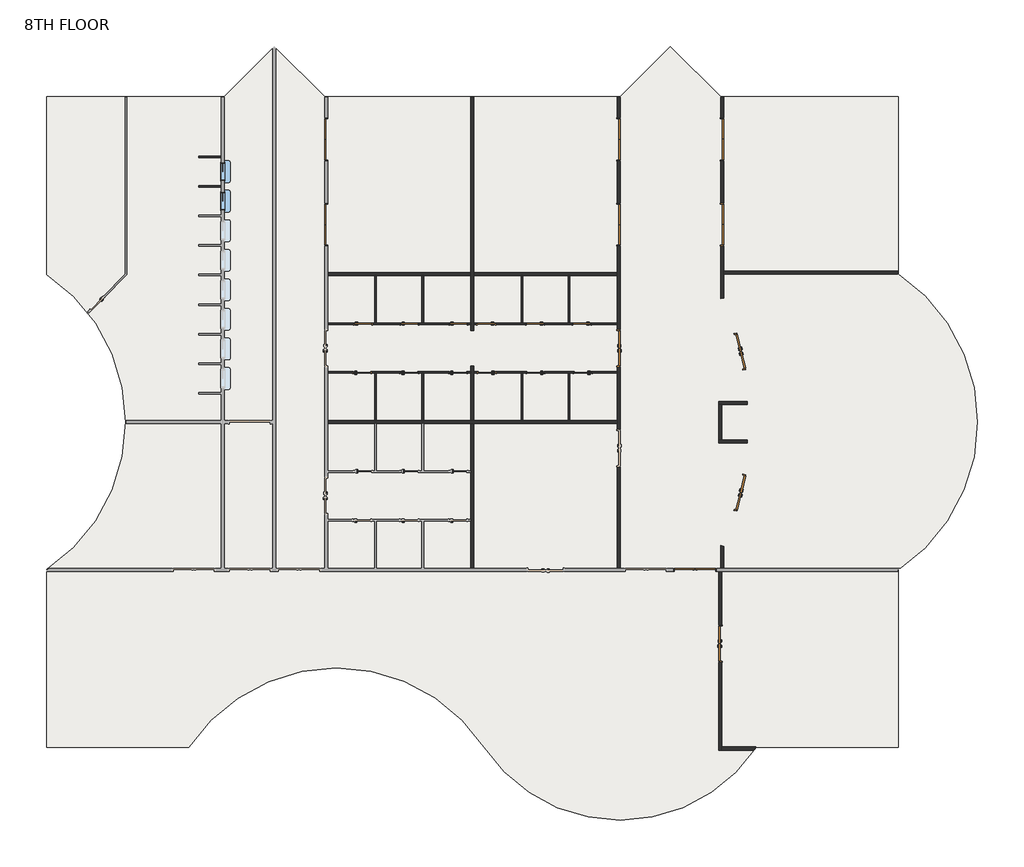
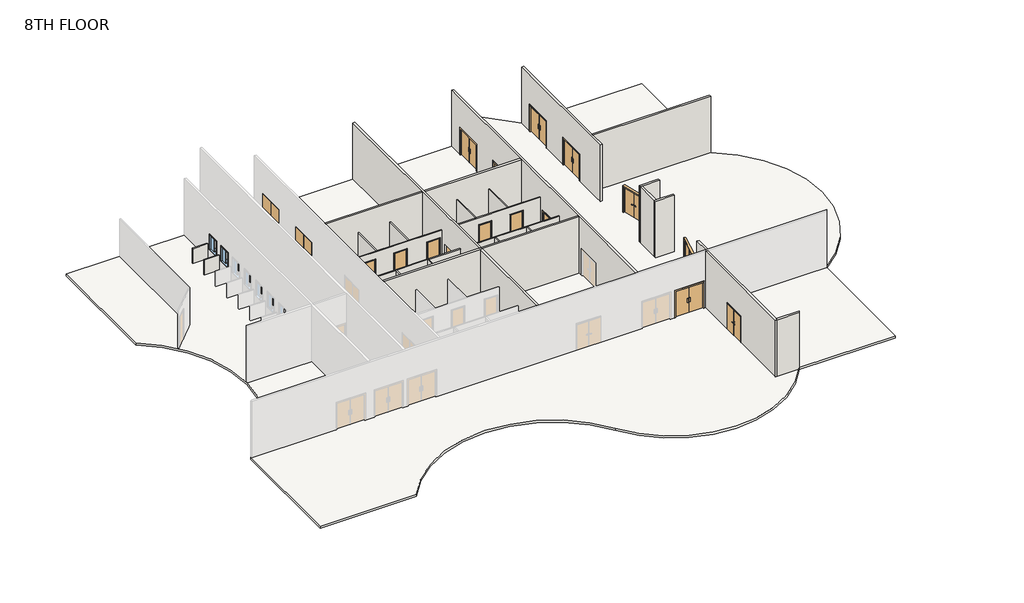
# One storey, part 2 of 2: 26 walls, 23 doors, 2 windows, 1 slab.
"""IFC4 building model written with IfcOpenShell, lengths in millimetres."""

from ifc_helpers import new_model, si_unit, point, frame, frame_2d, origin, place, context, project, spatial, polyline, circle_curve, trimmed, segment, composite_curve, outline, extrude, faceted_brep, transform, mapped, element, save
from ifc_brep_helpers import plane_surface, cylinder_surface, advanced_brep
from components import door_2f250f70, door_df8e76c5, door_0b13e4d9, door_b3a27a16, door_979b1b8c, door_f8b587be, pass_thru_4x3_19d81059

model = new_model("IFC4")

# Units and contexts
model_context = context("Model", 3, world=origin())
ifc_project = project(units=[si_unit("LENGTHUNIT", "METRE", prefix="MILLI")], contexts=[model_context])

# Site, building, storey
site = spatial("IfcSite", under=ifc_project)
building = spatial("IfcBuilding", under=site)
storey = spatial("IfcBuildingStorey", under=building, Name="8TH FLOOR", Elevation=36576.0)

# Doors
placement = place(None, origin())
door_shape = door_2f250f70(model_context)
element("IfcDoor", 1, ObjectType="Door-Passage-Double-Flush : 72\" x 82\"", at=placement, inside=storey, context=model_context, shape_type="MappedRepresentation", body=[
    mapped(door_shape, transform((35885.2621514, 20561.4429091, 36576.0), x_axis=(0.23975975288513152, -0.9708322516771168, 0.0), y_axis=(0.9708322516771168, 0.23975975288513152, 0.0), z_axis=(0.0, 0.0, 1.0))),
])
element("IfcDoor", 2, ObjectType="Door-Passage-Double-Flush : 72\" x 82\"", at=placement, inside=storey, context=model_context, shape_type="MappedRepresentation", body=[
    mapped(door_shape, transform((34887.5089577, 5494.3375, 36576.0), x_axis=(0.0, 1.0, 0.0), y_axis=(-1.0, 0.0, 0.0), z_axis=(0.0, 0.0, 1.0))),
])
door_2_shape = door_df8e76c5(model_context)
element("IfcDoor", 3, ObjectType="Door-Passage-Double-Flush : 72\" x 82\"", at=placement, inside=storey, context=model_context, shape_type="MappedRepresentation", body=[
    mapped(door_2_shape, transform((35886.7385063, 13277.3403388, 36576.0), x_axis=(0.23936619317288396, 0.9709293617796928, 0.0), y_axis=(-0.9709293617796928, 0.23936619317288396, 0.0), z_axis=(0.0, 0.0, 1.0))),
])
element("IfcDoor", 4, ObjectType="Door-Passage-Double-Flush : 72\" x 82\"", at=placement, inside=storey, context=model_context, shape_type="MappedRepresentation", body=[
    mapped(door_2_shape, transform((29628.0650257, 20729.575, 36576.0), x_axis=(0.0, 1.0, 0.0), y_axis=(-1.0, 0.0, 0.0), z_axis=(0.0, 0.0, 1.0))),
])
door_3_shape = door_0b13e4d9(model_context)
element("IfcDoor", 5, ObjectType="Door-Passage-Double-Flush-Dbl_Acting : 84\" x 84\"", at=placement, inside=storey, context=model_context, shape_type="MappedRepresentation", body=[
    mapped(door_3_shape, transform((33564.0300515, 9293.225, 36576.0), x_axis=(-1.0, 0.0, 0.0), y_axis=(0.0, -1.0, 0.0), z_axis=(0.0, 0.0, 1.0))),
])
element("IfcDoor", 6, ObjectType="Door-Passage-Double-Flush-Dbl_Acting : 84\" x 84\"", at=placement, inside=storey, context=model_context, shape_type="MappedRepresentation", body=[
    mapped(door_3_shape, transform((29628.0650257, 31499.175, 36576.0), x_axis=(0.0, 1.0, 0.0), y_axis=(-1.0, 0.0, 0.0), z_axis=(0.0, 0.0, 1.0))),
])
element("IfcDoor", 7, ObjectType="Door-Passage-Double-Flush-Dbl_Acting : 84\" x 84\"", at=placement, inside=storey, context=model_context, shape_type="MappedRepresentation", body=[
    mapped(door_3_shape, transform((29628.0650257, 27101.8, 36576.0), x_axis=(0.0, 1.0, 0.0), y_axis=(-1.0, 0.0, 0.0), z_axis=(0.0, 0.0, 1.0))),
])
door_4_shape = door_b3a27a16(model_context)
element("IfcDoor", 8, ObjectType="Door-Passage-Double-Flush-Dbl_Acting : 84\" x 84\"", at=placement, inside=storey, context=model_context, shape_type="MappedRepresentation", body=[
    mapped(door_4_shape, transform((14556.3400257, 31499.175, 36576.0), x_axis=(0.0, 1.0, 0.0), y_axis=(-1.0, 0.0, 0.0), z_axis=(0.0, 0.0, 1.0))),
])
element("IfcDoor", 9, ObjectType="Door-Passage-Double-Flush-Dbl_Acting : 84\" x 84\"", at=placement, inside=storey, context=model_context, shape_type="MappedRepresentation", body=[
    mapped(door_4_shape, transform((14556.3400257, 27101.8, 36576.0), x_axis=(0.0, 1.0, 0.0), y_axis=(-1.0, 0.0, 0.0), z_axis=(0.0, 0.0, 1.0))),
])
element("IfcDoor", 10, ObjectType="Door-Passage-Double-Flush-Dbl_Acting : 84\" x 84\"", at=placement, inside=storey, context=model_context, shape_type="MappedRepresentation", body=[
    mapped(door_4_shape, transform((34956.2675515, 31499.175, 36576.0), x_axis=(0.0, -1.0, 0.0), y_axis=(1.0, 0.0, 0.0), z_axis=(0.0, 0.0, 1.0))),
])
element("IfcDoor", 11, ObjectType="Door-Passage-Double-Flush-Dbl_Acting : 84\" x 84\"", at=placement, inside=storey, context=model_context, shape_type="MappedRepresentation", body=[
    mapped(door_4_shape, transform((34956.2675515, 27101.8, 36576.0), x_axis=(0.0, -1.0, 0.0), y_axis=(1.0, 0.0, 0.0), z_axis=(0.0, 0.0, 1.0))),
])
door_5_shape = door_979b1b8c(model_context)
element("IfcDoor", 12, ObjectType="Door-Passage-Single-Flush : 36\" x 96\"", at=placement, inside=storey, context=model_context, shape_type="MappedRepresentation", body=[
    mapped(door_5_shape, transform((16456.5775257, 21977.35, 36576.0), x_axis=(1.0, 0.0, 0.0), y_axis=(0.0, 1.0, 0.0), z_axis=(0.0, 0.0, 1.0))),
])
element("IfcDoor", 13, ObjectType="Door-Passage-Single-Flush : 36\" x 96\"", at=placement, inside=storey, context=model_context, shape_type="MappedRepresentation", body=[
    mapped(door_5_shape, transform((18855.2900257, 21977.35, 36576.0), x_axis=(1.0, 0.0, 0.0), y_axis=(0.0, 1.0, 0.0), z_axis=(0.0, 0.0, 1.0))),
])
element("IfcDoor", 14, ObjectType="Door-Passage-Single-Flush : 36\" x 96\"", at=placement, inside=storey, context=model_context, shape_type="MappedRepresentation", body=[
    mapped(door_5_shape, transform((21373.0650257, 21977.35, 36576.0), x_axis=(1.0, 0.0, 0.0), y_axis=(0.0, 1.0, 0.0), z_axis=(0.0, 0.0, 1.0))),
])
element("IfcDoor", 15, ObjectType="Door-Passage-Single-Flush : 36\" x 96\"", at=placement, inside=storey, context=model_context, shape_type="MappedRepresentation", body=[
    mapped(door_5_shape, transform((27778.6275257, 19481.8, 36576.0), x_axis=(-1.0, 0.0, 0.0), y_axis=(0.0, -1.0, 0.0), z_axis=(0.0, 0.0, 1.0))),
])
element("IfcDoor", 16, ObjectType="Door-Passage-Single-Flush : 36\" x 96\"", at=placement, inside=storey, context=model_context, shape_type="MappedRepresentation", body=[
    mapped(door_5_shape, transform((25348.1650257, 19481.8, 36576.0), x_axis=(-1.0, 0.0, 0.0), y_axis=(0.0, -1.0, 0.0), z_axis=(0.0, 0.0, 1.0))),
])
element("IfcDoor", 17, ObjectType="Door-Passage-Single-Flush : 36\" x 96\"", at=placement, inside=storey, context=model_context, shape_type="MappedRepresentation", body=[
    mapped(door_5_shape, transform((22830.3900257, 19481.8, 36576.0), x_axis=(-1.0, 0.0, 0.0), y_axis=(0.0, -1.0, 0.0), z_axis=(0.0, 0.0, 1.0))),
])
door_6_shape = door_f8b587be(model_context)
element("IfcDoor", 18, ObjectType="Door-Passage-Single-Flush : 36\" x 96\"", at=placement, inside=storey, context=model_context, shape_type="MappedRepresentation", body=[
    mapped(door_6_shape, transform((16405.7775257, 19481.8, 36576.0), x_axis=(1.0, 0.0, 0.0), y_axis=(0.0, 1.0, 0.0), z_axis=(0.0, 0.0, 1.0))),
])
element("IfcDoor", 19, ObjectType="Door-Passage-Single-Flush : 36\" x 96\"", at=placement, inside=storey, context=model_context, shape_type="MappedRepresentation", body=[
    mapped(door_6_shape, transform((18836.2400257, 19481.8, 36576.0), x_axis=(1.0, 0.0, 0.0), y_axis=(0.0, 1.0, 0.0), z_axis=(0.0, 0.0, 1.0))),
])
element("IfcDoor", 20, ObjectType="Door-Passage-Single-Flush : 36\" x 96\"", at=placement, inside=storey, context=model_context, shape_type="MappedRepresentation", body=[
    mapped(door_6_shape, transform((21354.0150257, 19481.8, 36576.0), x_axis=(1.0, 0.0, 0.0), y_axis=(0.0, 1.0, 0.0), z_axis=(0.0, 0.0, 1.0))),
])
element("IfcDoor", 21, ObjectType="Door-Passage-Single-Flush : 36\" x 96\"", at=placement, inside=storey, context=model_context, shape_type="MappedRepresentation", body=[
    mapped(door_6_shape, transform((27727.8275257, 21977.35, 36576.0), x_axis=(-1.0, 0.0, 0.0), y_axis=(0.0, -1.0, 0.0), z_axis=(0.0, 0.0, 1.0))),
])
element("IfcDoor", 22, ObjectType="Door-Passage-Single-Flush : 36\" x 96\"", at=placement, inside=storey, context=model_context, shape_type="MappedRepresentation", body=[
    mapped(door_6_shape, transform((25329.1150257, 21977.35, 36576.0), x_axis=(-1.0, 0.0, 0.0), y_axis=(0.0, -1.0, 0.0), z_axis=(0.0, 0.0, 1.0))),
])
element("IfcDoor", 23, ObjectType="Door-Passage-Single-Flush : 36\" x 96\"", at=placement, inside=storey, context=model_context, shape_type="MappedRepresentation", body=[
    mapped(door_6_shape, transform((22811.3400257, 21977.35, 36576.0), x_axis=(-1.0, 0.0, 0.0), y_axis=(0.0, -1.0, 0.0), z_axis=(0.0, 0.0, 1.0))),
])

# Slab
element("IfcSlab", 24, ObjectType="ARCHITECTURAL FINISH FLOOR", at=placement, inside=storey, context=model_context, shape_type="SweptSolid", body=[
    extrude(outline(composite_curve([segment(polyline([(9294.3144878, 33696.275), (11885.8887629, 36287.8492751), (14477.463038, 33696.275), (29706.9420135, 33696.275), (32298.5162886, 36287.8492751), (34890.0905637, 33696.275), (44041.5300515, 33696.275), (44041.5300515, 24546.3877275)]), True, "CONTINUOUS"), segment(trimmed(circle_curve(frame_2d((38974.293871, 16919.575)), 9156.7), [point((44041.5300515, 24546.3877275))], [point((44041.5300515, 9292.7622725))], False, "CARTESIAN"), True, "CONTINUOUS"), segment(polyline([(44041.5300515, 9292.7622725), (44041.5300515, 142.875), (36720.4425102, 142.875)]), True, "CONTINUOUS"), segment(trimmed(circle_curve(frame_2d((29712.2025257, 4799.7966199)), 8414.4130309), [point((36720.4425102, 142.875))], [point((22700.1916667, 148.5548109))], False, "CARTESIAN"), True, "CONTINUOUS"), segment(trimmed(circle_curve(frame_2d((15090.775, -4898.9611805)), 9131.3), [point((22700.1916667, 148.5548109))], [point((7477.593824, 142.875))], True, "CARTESIAN"), True, "CONTINUOUS"), segment(polyline([(7477.593824, 142.875), (142.875, 142.875), (142.875, 9306.393824)]), True, "CONTINUOUS"), segment(trimmed(circle_curve(frame_2d((-4898.9611805, 16919.575)), 9131.3), [point((142.875, 9306.393824))], [point((142.875, 24532.756176))], True, "CARTESIAN"), True, "CONTINUOUS"), segment(polyline([(142.875, 24532.756176), (142.875, 33696.275), (9294.3144878, 33696.275)]), True, "CONTINUOUS")], self_intersect=False)), frame((0.0, 0.0, 36423.6), z_axis=(0.0, 0.0, 1.0), x_axis=(1.0, 0.0, 0.0)), (0.0, 0.0, 1.0), 171.45),
])

# Walls
element("IfcWall", 25, ObjectType="SYR_INT_ONE_HOUR", at=placement, inside=storey, context=model_context, shape_type="SweptSolid", body=[
    extrude(outline(polyline([(17066.1775257, 22023.3875), (17066.1775257, 24461.7875), (17145.5525257, 24461.7875), (17145.5525257, 22023.3875), (17066.1775257, 22023.3875)])), frame((0.0, 0.0, 36576.0), z_axis=(0.0, 0.0, 1.0), x_axis=(1.0, 0.0, 0.0)), (0.0, 0.0, 1.0), 3048.0),
])
element("IfcWall", 26, ObjectType="SYR_INT_ONE_HOUR", at=placement, inside=storey, context=model_context, shape_type="SweptSolid", body=[
    extrude(outline(polyline([(19576.0150257, 19435.7625), (19576.0150257, 16997.3625), (19496.6400257, 16997.3625), (19496.6400257, 19435.7625), (19576.0150257, 19435.7625)])), frame((0.0, 0.0, 36576.0), z_axis=(0.0, 0.0, 1.0), x_axis=(1.0, 0.0, 0.0)), (0.0, 0.0, 1.0), 3048.0),
])
element("IfcWall", 27, ObjectType="SYR_INT_ONE_HOUR", at=placement, inside=storey, context=model_context, shape_type="Brep", body=[
    faceted_brep([(14627.7775257, 22023.3875, 39624.0), (17066.1775257, 22023.3875, 39624.0), (17145.5525257, 22023.3875, 39624.0), (19496.6400257, 22023.3875, 39624.0), (19576.0150257, 22023.3875, 39624.0), (22014.4150257, 22023.3875, 39624.0), (22014.4150257, 22023.3875, 36576.0), (21862.0150257, 22023.3875, 36576.0), (21862.0150257, 22023.3875, 39046.15), (20884.1150257, 22023.3875, 39046.15), (20884.1150257, 22023.3875, 36576.0), (19576.0150257, 22023.3875, 36576.0), (19496.6400257, 22023.3875, 36576.0), (19344.2400257, 22023.3875, 36576.0), (19344.2400257, 22023.3875, 39046.15), (18366.3400257, 22023.3875, 39046.15), (18366.3400257, 22023.3875, 36576.0), (17145.5525257, 22023.3875, 36576.0), (17066.1775257, 22023.3875, 36576.0), (16945.5275257, 22023.3875, 36576.0), (16945.5275257, 22023.3875, 39046.15), (15967.6275257, 22023.3875, 39046.15), (15967.6275257, 22023.3875, 36576.0), (14627.7775257, 22023.3875, 36576.0), (22014.4150257, 21944.0125, 39624.0), (14627.7775257, 21944.0125, 39624.0), (14627.7775257, 21944.0125, 36576.0), (15967.6275257, 21944.0125, 36576.0), (15967.6275257, 21944.0125, 39046.15), (16945.5275257, 21944.0125, 39046.15), (16945.5275257, 21944.0125, 36576.0), (18366.3400257, 21944.0125, 36576.0), (18366.3400257, 21944.0125, 39046.15), (19344.2400257, 21944.0125, 39046.15), (19344.2400257, 21944.0125, 36576.0), (20884.1150257, 21944.0125, 36576.0), (20884.1150257, 21944.0125, 39046.15), (21862.0150257, 21944.0125, 39046.15), (21862.0150257, 21944.0125, 36576.0), (22014.4150257, 21944.0125, 36576.0)], [[[0, 1, 2, 3, 4, 5, 6, 7, 8, 9, 10, 11, 12, 13, 14, 15, 16, 17, 18, 19, 20, 21, 22, 23]], [[24, 25, 26, 27, 28, 29, 30, 31, 32, 33, 34, 35, 36, 37, 38, 39]], [[23, 22, 27, 26]], [[30, 19, 18, 17, 16, 31]], [[34, 13, 12, 11, 10, 35]], [[6, 39, 38, 7]], [[5, 4, 3, 2, 1, 0, 25, 24]], [[29, 20, 19, 30]], [[20, 29, 28, 21]], [[21, 28, 27, 22]], [[14, 13, 34, 33]], [[15, 14, 33, 32]], [[16, 15, 32, 31]], [[37, 8, 7, 38]], [[8, 37, 36, 9]], [[9, 36, 35, 10]], [[0, 23, 26, 25]], [[6, 5, 24, 39]]]),
])
element("IfcWall", 28, ObjectType="SYR_INT_ONE_HOUR", at=placement, inside=storey, context=model_context, shape_type="Brep", body=[
    faceted_brep([(14627.7775257, 19515.1375, 39624.0), (22014.4150257, 19515.1375, 39624.0), (22014.4150257, 19515.1375, 36576.0), (21842.9650257, 19515.1375, 36576.0), (21842.9650257, 19515.1375, 39046.15), (20865.0650257, 19515.1375, 39046.15), (20865.0650257, 19515.1375, 36576.0), (19325.1900257, 19515.1375, 36576.0), (19325.1900257, 19515.1375, 39046.15), (18347.2900257, 19515.1375, 39046.15), (18347.2900257, 19515.1375, 36576.0), (16894.7275257, 19515.1375, 36576.0), (16894.7275257, 19515.1375, 39046.15), (15916.8275257, 19515.1375, 39046.15), (15916.8275257, 19515.1375, 36576.0), (14627.7775257, 19515.1375, 36576.0), (22014.4150257, 19435.7625, 39624.0), (19576.0150257, 19435.7625, 39624.0), (19496.6400257, 19435.7625, 39624.0), (17145.5525257, 19435.7625, 39624.0), (17066.1775257, 19435.7625, 39624.0), (14627.7775257, 19435.7625, 39624.0), (14627.7775257, 19435.7625, 36576.0), (15916.8275257, 19435.7625, 36576.0), (15916.8275257, 19435.7625, 39046.15), (16894.7275257, 19435.7625, 39046.15), (16894.7275257, 19435.7625, 36576.0), (17066.1775257, 19435.7625, 36576.0), (17145.5525257, 19435.7625, 36576.0), (18347.2900257, 19435.7625, 36576.0), (18347.2900257, 19435.7625, 39046.15), (19325.1900257, 19435.7625, 39046.15), (19325.1900257, 19435.7625, 36576.0), (19496.6400257, 19435.7625, 36576.0), (19576.0150257, 19435.7625, 36576.0), (20865.0650257, 19435.7625, 36576.0), (20865.0650257, 19435.7625, 39046.15), (21842.9650257, 19435.7625, 39046.15), (21842.9650257, 19435.7625, 36576.0), (22014.4150257, 19435.7625, 36576.0)], [[[0, 1, 2, 3, 4, 5, 6, 7, 8, 9, 10, 11, 12, 13, 14, 15]], [[16, 17, 18, 19, 20, 21, 22, 23, 24, 25, 26, 27, 28, 29, 30, 31, 32, 33, 34, 35, 36, 37, 38, 39]], [[15, 14, 23, 22]], [[26, 11, 10, 29, 28, 27]], [[32, 7, 6, 35, 34, 33]], [[2, 39, 38, 3]], [[1, 0, 21, 20, 19, 18, 17, 16]], [[25, 12, 11, 26]], [[12, 25, 24, 13]], [[13, 24, 23, 14]], [[31, 8, 7, 32]], [[8, 31, 30, 9]], [[9, 30, 29, 10]], [[37, 4, 3, 38]], [[4, 37, 36, 5]], [[5, 36, 35, 6]], [[0, 15, 22, 21]], [[2, 1, 16, 39]]]),
])
element("IfcWall", 29, ObjectType="SYR_INT_ONE_HOUR", at=placement, inside=storey, context=model_context, shape_type="SweptSolid", body=[
    extrude(outline(polyline([(17066.1775257, 16997.3625), (17066.1775257, 19435.7625), (17145.5525257, 19435.7625), (17145.5525257, 16997.3625), (17066.1775257, 16997.3625)])), frame((0.0, 0.0, 36576.0), z_axis=(0.0, 0.0, 1.0), x_axis=(1.0, 0.0, 0.0)), (0.0, 0.0, 1.0), 3048.0),
])
element("IfcWall", 30, ObjectType="SYR_INT_ONE_HOUR", at=placement, inside=storey, context=model_context, shape_type="SweptSolid", body=[
    extrude(outline(polyline([(19576.0150257, 24461.7875), (19576.0150257, 22023.3875), (19496.6400257, 22023.3875), (19496.6400257, 24461.7875), (19576.0150257, 24461.7875)])), frame((0.0, 0.0, 36576.0), z_axis=(0.0, 0.0, 1.0), x_axis=(1.0, 0.0, 0.0)), (0.0, 0.0, 1.0), 3048.0),
])
element("IfcWall", 31, ObjectType="SYR_INT_ONE_HOUR", at=placement, inside=storey, context=model_context, shape_type="SweptSolid", body=[
    extrude(outline(polyline([(7979.2710938, 29111.575), (9144.0, 29111.575), (9144.0, 29032.2), (7979.2710938, 29032.2), (7979.2710938, 29111.575)])), frame((0.0, 0.0, 36576.0), z_axis=(0.0, 0.0, 1.0), x_axis=(1.0, 0.0, 0.0)), (0.0, 0.0, 1.0), 1219.2),
])
element("IfcWall", 32, ObjectType="SYR_INT_ONE_HOUR", at=placement, inside=storey, context=model_context, shape_type="SweptSolid", body=[
    extrude(outline(polyline([(7979.2710938, 30635.575), (9144.0, 30635.575), (9144.0, 30556.2), (7979.2710938, 30556.2), (7979.2710938, 30635.575)])), frame((0.0, 0.0, 36576.0), z_axis=(0.0, 0.0, 1.0), x_axis=(1.0, 0.0, 0.0)), (0.0, 0.0, 1.0), 1219.2),
])
element("IfcWall", 33, ObjectType="SYR_INT_ONE_HOUR", at=placement, inside=storey, context=model_context, shape_type="SweptSolid", body=[
    extrude(outline(polyline([(27038.8525257, 22023.3875), (27038.8525257, 24461.7875), (27118.2275257, 24461.7875), (27118.2275257, 22023.3875), (27038.8525257, 22023.3875)])), frame((0.0, 0.0, 36576.0), z_axis=(0.0, 0.0, 1.0), x_axis=(1.0, 0.0, 0.0)), (0.0, 0.0, 1.0), 3048.0),
])
element("IfcWall", 34, ObjectType="SYR_INT_ONE_HOUR", at=placement, inside=storey, context=model_context, shape_type="SweptSolid", body=[
    extrude(outline(polyline([(24687.7650257, 19435.7625), (24687.7650257, 16997.3625), (24608.3900257, 16997.3625), (24608.3900257, 19435.7625), (24687.7650257, 19435.7625)])), frame((0.0, 0.0, 36576.0), z_axis=(0.0, 0.0, 1.0), x_axis=(1.0, 0.0, 0.0)), (0.0, 0.0, 1.0), 3048.0),
])
element("IfcWall", 35, ObjectType="SYR_INT_ONE_HOUR", at=placement, inside=storey, context=model_context, shape_type="Brep", body=[
    faceted_brep([(29556.6275257, 21944.0125, 39624.0), (22169.9900257, 21944.0125, 39624.0), (22169.9900257, 21944.0125, 36576.0), (22322.3900257, 21944.0125, 36576.0), (22322.3900257, 21944.0125, 39046.15), (23300.2900257, 21944.0125, 39046.15), (23300.2900257, 21944.0125, 36576.0), (24840.1650257, 21944.0125, 36576.0), (24840.1650257, 21944.0125, 39046.15), (25818.0650257, 21944.0125, 39046.15), (25818.0650257, 21944.0125, 36576.0), (27238.8775257, 21944.0125, 36576.0), (27238.8775257, 21944.0125, 39046.15), (28216.7775257, 21944.0125, 39046.15), (28216.7775257, 21944.0125, 36576.0), (29556.6275257, 21944.0125, 36576.0), (22169.9900257, 22023.3875, 39624.0), (24608.3900257, 22023.3875, 39624.0), (24687.7650257, 22023.3875, 39624.0), (27038.8525257, 22023.3875, 39624.0), (27118.2275257, 22023.3875, 39624.0), (29556.6275257, 22023.3875, 39624.0), (29556.6275257, 22023.3875, 36576.0), (28216.7775257, 22023.3875, 36576.0), (28216.7775257, 22023.3875, 39046.15), (27238.8775257, 22023.3875, 39046.15), (27238.8775257, 22023.3875, 36576.0), (27118.2275257, 22023.3875, 36576.0), (27038.8525257, 22023.3875, 36576.0), (25818.0650257, 22023.3875, 36576.0), (25818.0650257, 22023.3875, 39046.15), (24840.1650257, 22023.3875, 39046.15), (24840.1650257, 22023.3875, 36576.0), (24687.7650257, 22023.3875, 36576.0), (24608.3900257, 22023.3875, 36576.0), (23300.2900257, 22023.3875, 36576.0), (23300.2900257, 22023.3875, 39046.15), (22322.3900257, 22023.3875, 39046.15), (22322.3900257, 22023.3875, 36576.0), (22169.9900257, 22023.3875, 36576.0)], [[[0, 1, 2, 3, 4, 5, 6, 7, 8, 9, 10, 11, 12, 13, 14, 15]], [[16, 17, 18, 19, 20, 21, 22, 23, 24, 25, 26, 27, 28, 29, 30, 31, 32, 33, 34, 35, 36, 37, 38, 39]], [[15, 14, 23, 22]], [[26, 11, 10, 29, 28, 27]], [[32, 7, 6, 35, 34, 33]], [[2, 39, 38, 3]], [[1, 0, 21, 20, 19, 18, 17, 16]], [[25, 12, 11, 26]], [[12, 25, 24, 13]], [[13, 24, 23, 14]], [[8, 7, 32, 31]], [[9, 8, 31, 30]], [[10, 9, 30, 29]], [[37, 4, 3, 38]], [[4, 37, 36, 5]], [[5, 36, 35, 6]], [[0, 15, 22, 21]], [[2, 1, 16, 39]]]),
])
element("IfcWall", 36, ObjectType="SYR_INT_ONE_HOUR", at=placement, inside=storey, context=model_context, shape_type="Brep", body=[
    faceted_brep([(29556.6275257, 19435.7625, 39624.0), (27118.2275257, 19435.7625, 39624.0), (27038.8525257, 19435.7625, 39624.0), (24687.7650257, 19435.7625, 39624.0), (24608.3900257, 19435.7625, 39624.0), (22169.9900257, 19435.7625, 39624.0), (22169.9900257, 19435.7625, 36576.0), (22341.4400257, 19435.7625, 36576.0), (22341.4400257, 19435.7625, 39046.15), (23319.3400257, 19435.7625, 39046.15), (23319.3400257, 19435.7625, 36576.0), (24608.3900257, 19435.7625, 36576.0), (24687.7650257, 19435.7625, 36576.0), (24859.2150257, 19435.7625, 36576.0), (24859.2150257, 19435.7625, 39046.15), (25837.1150257, 19435.7625, 39046.15), (25837.1150257, 19435.7625, 36576.0), (27038.8525257, 19435.7625, 36576.0), (27118.2275257, 19435.7625, 36576.0), (27289.6775257, 19435.7625, 36576.0), (27289.6775257, 19435.7625, 39046.15), (28267.5775257, 19435.7625, 39046.15), (28267.5775257, 19435.7625, 36576.0), (29556.6275257, 19435.7625, 36576.0), (22169.9900257, 19515.1375, 39624.0), (29556.6275257, 19515.1375, 39624.0), (29556.6275257, 19515.1375, 36576.0), (28267.5775257, 19515.1375, 36576.0), (28267.5775257, 19515.1375, 39046.15), (27289.6775257, 19515.1375, 39046.15), (27289.6775257, 19515.1375, 36576.0), (25837.1150257, 19515.1375, 36576.0), (25837.1150257, 19515.1375, 39046.15), (24859.2150257, 19515.1375, 39046.15), (24859.2150257, 19515.1375, 36576.0), (23319.3400257, 19515.1375, 36576.0), (23319.3400257, 19515.1375, 39046.15), (22341.4400257, 19515.1375, 39046.15), (22341.4400257, 19515.1375, 36576.0), (22169.9900257, 19515.1375, 36576.0)], [[[0, 1, 2, 3, 4, 5, 6, 7, 8, 9, 10, 11, 12, 13, 14, 15, 16, 17, 18, 19, 20, 21, 22, 23]], [[24, 25, 26, 27, 28, 29, 30, 31, 32, 33, 34, 35, 36, 37, 38, 39]], [[23, 22, 27, 26]], [[30, 19, 18, 17, 16, 31]], [[34, 13, 12, 11, 10, 35]], [[6, 39, 38, 7]], [[5, 4, 3, 2, 1, 0, 25, 24]], [[29, 20, 19, 30]], [[20, 29, 28, 21]], [[21, 28, 27, 22]], [[33, 14, 13, 34]], [[14, 33, 32, 15]], [[15, 32, 31, 16]], [[37, 8, 7, 38]], [[8, 37, 36, 9]], [[9, 36, 35, 10]], [[0, 23, 26, 25]], [[6, 5, 24, 39]]]),
])
element("IfcWall", 37, ObjectType="SYR_INT_ONE_HOUR", at=placement, inside=storey, context=model_context, shape_type="SweptSolid", body=[
    extrude(outline(polyline([(27038.8525257, 16997.3625), (27038.8525257, 19435.7625), (27118.2275257, 19435.7625), (27118.2275257, 16997.3625), (27038.8525257, 16997.3625)])), frame((0.0, 0.0, 36576.0), z_axis=(0.0, 0.0, 1.0), x_axis=(1.0, 0.0, 0.0)), (0.0, 0.0, 1.0), 3048.0),
])
element("IfcWall", 38, ObjectType="SYR_INT_ONE_HOUR", at=placement, inside=storey, context=model_context, shape_type="SweptSolid", body=[
    extrude(outline(polyline([(24687.7650257, 24461.7875), (24687.7650257, 22023.3875), (24608.3900257, 22023.3875), (24608.3900257, 24461.7875), (24687.7650257, 24461.7875)])), frame((0.0, 0.0, 36576.0), z_axis=(0.0, 0.0, 1.0), x_axis=(1.0, 0.0, 0.0)), (0.0, 0.0, 1.0), 3048.0),
])
element("IfcWall", 39, ObjectType="SYR_INT_TWO_HOUR", at=placement, inside=storey, context=model_context, shape_type="Brep", body=[
    faceted_brep([(34803.3714577, 0.0, 41148.0), (34803.3714577, 9221.7875, 41148.0), (34803.3714577, 9221.7875, 36576.0), (34803.3714577, 6459.5375, 36576.0), (34803.3714577, 6459.5375, 38760.4), (34803.3714577, 4529.1375, 38760.4), (34803.3714577, 4529.1375, 36576.0), (34803.3714577, 0.0, 36576.0), (34958.9464577, 9221.7875, 41148.0), (34958.9464577, 155.575, 41148.0), (34958.9464577, 0.0, 41148.0), (34958.9464577, 0.0, 36576.0), (34958.9464577, 155.575, 36576.0), (34958.9464577, 4529.1375, 36576.0), (34958.9464577, 4529.1375, 38760.4), (34958.9464577, 6459.5375, 38760.4), (34958.9464577, 6459.5375, 36576.0), (34958.9464577, 9221.7875, 36576.0)], [[[0, 1, 2, 3, 4, 5, 6, 7]], [[8, 9, 10, 11, 12, 13, 14, 15, 16, 17]], [[2, 17, 16, 3]], [[11, 7, 6, 13, 12]], [[1, 0, 10, 9, 8]], [[2, 1, 8, 17]], [[0, 7, 11, 10]], [[15, 4, 3, 16]], [[4, 15, 14, 5]], [[5, 14, 13, 6]]]),
])
element("IfcWall", 40, ObjectType="SYR_INT_TWO_HOUR", at=placement, inside=storey, context=model_context, shape_type="SweptSolid", body=[
    extrude(outline(composite_curve([segment(polyline([(36607.9065696, 0.0), (34958.9464577, 0.0), (34958.9464577, 155.575), (36713.6300515, 155.575)]), True, "CONTINUOUS"), segment(trimmed(circle_curve(frame_2d((29712.2025257, 4799.7966199)), 8401.7130309), [point((36713.6300515, 155.575))], [point((36607.9065696, 0.0))], False, "CARTESIAN"), True, "CONTINUOUS")], self_intersect=False)), frame((0.0, 0.0, 36576.0), z_axis=(0.0, 0.0, 1.0), x_axis=(1.0, 0.0, 0.0)), (0.0, 0.0, 1.0), 4572.0),
])
element("IfcWall", 41, ObjectType="SYR_INT_TWO_HOUR", at=placement, inside=storey, context=model_context, shape_type="Brep", body=[
    faceted_brep([(29556.6275257, 9377.3625, 41148.0), (29556.6275257, 16841.7875, 41148.0), (29556.6275257, 16997.3625, 41148.0), (29556.6275257, 24461.7875, 41148.0), (29556.6275257, 24617.3625, 41148.0), (29556.6275257, 33683.575, 41148.0), (29556.6275257, 33683.575, 36576.0), (29556.6275257, 32616.775, 36576.0), (29556.6275257, 32616.775, 38811.2), (29556.6275257, 30381.575, 38811.2), (29556.6275257, 30381.575, 36576.0), (29556.6275257, 28219.4, 36576.0), (29556.6275257, 28219.4, 38811.2), (29556.6275257, 25984.2, 38811.2), (29556.6275257, 25984.2, 36576.0), (29556.6275257, 24617.3625, 36576.0), (29556.6275257, 24461.7875, 36576.0), (29556.6275257, 22023.3875, 36576.0), (29556.6275257, 21944.0125, 36576.0), (29556.6275257, 21694.775, 36576.0), (29556.6275257, 21694.775, 38760.4), (29556.6275257, 19764.375, 38760.4), (29556.6275257, 19764.375, 36576.0), (29556.6275257, 19515.1375, 36576.0), (29556.6275257, 19435.7625, 36576.0), (29556.6275257, 16997.3625, 36576.0), (29556.6275257, 16841.7875, 36576.0), (29556.6275257, 16536.9875, 36576.0), (29556.6275257, 16536.9875, 38760.4), (29556.6275257, 14606.5875, 38760.4), (29556.6275257, 14606.5875, 36576.0), (29556.6275257, 9377.3625, 36576.0), (29712.2025257, 33683.575, 41148.0), (29712.2025257, 9377.3625, 41148.0), (29712.2025257, 9377.3625, 36576.0), (29712.2025257, 14606.5875, 36576.0), (29712.2025257, 14606.5875, 38760.4), (29712.2025257, 16536.9875, 38760.4), (29712.2025257, 16536.9875, 36576.0), (29712.2025257, 19764.375, 36576.0), (29712.2025257, 19764.375, 38760.4), (29712.2025257, 21694.775, 38760.4), (29712.2025257, 21694.775, 36576.0), (29712.2025257, 25984.2, 36576.0), (29712.2025257, 25984.2, 38811.2), (29712.2025257, 28219.4, 38811.2), (29712.2025257, 28219.4, 36576.0), (29712.2025257, 30381.575, 36576.0), (29712.2025257, 30381.575, 38811.2), (29712.2025257, 32616.775, 38811.2), (29712.2025257, 32616.775, 36576.0), (29712.2025257, 33683.575, 36576.0)], [[[0, 1, 2, 3, 4, 5, 6, 7, 8, 9, 10, 11, 12, 13, 14, 15, 16, 17, 18, 19, 20, 21, 22, 23, 24, 25, 26, 27, 28, 29, 30, 31]], [[32, 33, 34, 35, 36, 37, 38, 39, 40, 41, 42, 43, 44, 45, 46, 47, 48, 49, 50, 51]], [[34, 31, 30, 35]], [[42, 19, 18, 17, 16, 15, 14, 43]], [[22, 39, 38, 27, 26, 25, 24, 23]], [[46, 11, 10, 47]], [[7, 6, 51, 50]], [[5, 4, 3, 2, 1, 0, 33, 32]], [[0, 31, 34, 33]], [[41, 20, 19, 42]], [[20, 41, 40, 21]], [[21, 40, 39, 22]], [[45, 12, 11, 46]], [[12, 45, 44, 13]], [[13, 44, 43, 14]], [[49, 8, 7, 50]], [[8, 49, 48, 9]], [[9, 48, 47, 10]], [[29, 36, 35, 30]], [[36, 29, 28, 37]], [[37, 28, 27, 38]], [[6, 5, 32, 51]]]),
])
element("IfcWall", 42, ObjectType="SYR_INT_TWO_HOUR", at=placement, inside=storey, context=model_context, shape_type="Brep", body=[
    faceted_brep([(34884.8300515, 23286.7810764, 41148.0), (34884.8300515, 33683.575, 41148.0), (34884.8300515, 33683.575, 36576.0), (34884.8300515, 32616.775, 36576.0), (34884.8300515, 32616.775, 38811.2), (34884.8300515, 30381.575, 38811.2), (34884.8300515, 30381.575, 36576.0), (34884.8300515, 28219.4, 36576.0), (34884.8300515, 28219.4, 38811.2), (34884.8300515, 25984.2, 38811.2), (34884.8300515, 25984.2, 36576.0), (34884.8300515, 23286.7810764, 36576.0), (35040.4050515, 33683.575, 41148.0), (35040.4050515, 24695.15, 41148.0), (35040.4050515, 24539.575, 41148.0), (35040.4050515, 23320.9573614, 41148.0), (35040.4050515, 23320.9573614, 36576.0), (35040.4050515, 24539.575, 36576.0), (35040.4050515, 24695.15, 36576.0), (35040.4050515, 25984.2, 36576.0), (35040.4050515, 25984.2, 38811.2), (35040.4050515, 28219.4, 38811.2), (35040.4050515, 28219.4, 36576.0), (35040.4050515, 30381.575, 36576.0), (35040.4050515, 30381.575, 38811.2), (35040.4050515, 32616.775, 38811.2), (35040.4050515, 32616.775, 36576.0), (35040.4050515, 33683.575, 36576.0)], [[[0, 1, 2, 3, 4, 5, 6, 7, 8, 9, 10, 11]], [[12, 13, 14, 15, 16, 17, 18, 19, 20, 21, 22, 23, 24, 25, 26, 27]], [[16, 11, 10, 19, 18, 17]], [[3, 2, 27, 26]], [[6, 23, 22, 7]], [[1, 0, 15, 14, 13, 12]], [[0, 11, 16, 15]], [[5, 24, 23, 6]], [[24, 5, 4, 25]], [[25, 4, 3, 26]], [[9, 20, 19, 10]], [[20, 9, 8, 21]], [[21, 8, 7, 22]], [[2, 1, 12, 27]]]),
])
element("IfcWall", 43, ObjectType="SYR_INT_TWO_HOUR", at=placement, inside=storey, context=model_context, shape_type="Brep", body=[
    faceted_brep([(14627.7775257, 16841.7875, 36576.0), (17066.1775257, 16841.7875, 36576.0), (17145.5525257, 16841.7875, 36576.0), (19496.6400257, 16841.7875, 36576.0), (19576.0150257, 16841.7875, 36576.0), (22014.4150257, 16841.7875, 36576.0), (22169.9900257, 16841.7875, 36576.0), (29556.6275257, 16841.7875, 36576.0), (29556.6275257, 16841.7875, 41148.0), (22169.9900257, 16841.7875, 41148.0), (22014.4150257, 16841.7875, 41148.0), (14627.7775257, 16841.7875, 41148.0), (14627.7775257, 16997.3625, 36576.0), (14627.7775257, 16997.3625, 41148.0), (22014.4150257, 16997.3625, 41148.0), (22169.9900257, 16997.3625, 41148.0), (29556.6275257, 16997.3625, 41148.0), (29556.6275257, 16997.3625, 36576.0), (27118.2275257, 16997.3625, 36576.0), (27038.8525257, 16997.3625, 36576.0), (24687.7650257, 16997.3625, 36576.0), (24608.3900257, 16997.3625, 36576.0), (22169.9900257, 16997.3625, 36576.0), (22014.4150257, 16997.3625, 36576.0), (19576.0150257, 16997.3625, 36576.0), (19496.6400257, 16997.3625, 36576.0), (17145.5525257, 16997.3625, 36576.0), (17066.1775257, 16997.3625, 36576.0)], [[[0, 1, 2, 3, 4, 5, 6, 7, 8, 9, 10, 11]], [[12, 13, 14, 15, 16, 17, 18, 19, 20, 21, 22, 23, 24, 25, 26, 27]], [[7, 6, 5, 4, 3, 2, 1, 0, 12, 27, 26, 25, 24, 23, 22, 21, 20, 19, 18, 17]], [[11, 10, 9, 8, 16, 15, 14, 13]], [[0, 11, 13, 12]], [[8, 7, 17, 16]]]),
])
element("IfcWall", 44, ObjectType="SYR_INT_TWO_HOUR", at=placement, inside=storey, context=model_context, shape_type="Brep", body=[
    faceted_brep([(22169.9900257, 9377.3625, 41148.0), (22169.9900257, 9377.3625, 36576.0), (22169.9900257, 16841.7875, 36576.0), (22169.9900257, 16841.7875, 41148.0), (22014.4150257, 9377.3625, 36576.0), (22014.4150257, 9377.3625, 41148.0), (22014.4150257, 16841.7875, 41148.0), (22014.4150257, 16841.7875, 36576.0), (22014.4150257, 14403.3875, 36576.0), (22014.4150257, 14324.0125, 36576.0), (22014.4150257, 11895.1375, 36576.0), (22014.4150257, 11815.7625, 36576.0)], [[[0, 1, 2, 3]], [[4, 5, 6, 7, 8, 9, 10, 11]], [[1, 4, 11, 10, 9, 8, 7, 2]], [[5, 0, 3, 6]], [[1, 0, 5, 4]], [[3, 2, 7, 6]]]),
    faceted_brep([(22169.9900257, 19815.175, 36576.0), (22169.9900257, 19815.175, 38709.6), (22169.9900257, 21643.975, 38709.6), (22169.9900257, 21643.975, 36576.0), (22169.9900257, 21944.0125, 36576.0), (22169.9900257, 22023.3875, 36576.0), (22169.9900257, 24461.7875, 36576.0), (22169.9900257, 24617.3625, 36576.0), (22169.9900257, 33683.575, 36576.0), (22169.9900257, 33683.575, 41148.0), (22169.9900257, 24617.3625, 41148.0), (22169.9900257, 24461.7875, 41148.0), (22169.9900257, 16997.3625, 41148.0), (22169.9900257, 16997.3625, 36576.0), (22169.9900257, 19435.7625, 36576.0), (22169.9900257, 19515.1375, 36576.0), (22014.4150257, 19815.175, 38709.6), (22014.4150257, 19815.175, 36576.0), (22014.4150257, 19515.1375, 36576.0), (22014.4150257, 19435.7625, 36576.0), (22014.4150257, 16997.3625, 36576.0), (22014.4150257, 16997.3625, 41148.0), (22014.4150257, 24461.7875, 41148.0), (22014.4150257, 24617.3625, 41148.0), (22014.4150257, 33683.575, 41148.0), (22014.4150257, 33683.575, 36576.0), (22014.4150257, 24617.3625, 36576.0), (22014.4150257, 24461.7875, 36576.0), (22014.4150257, 22023.3875, 36576.0), (22014.4150257, 21944.0125, 36576.0), (22014.4150257, 21643.975, 36576.0), (22014.4150257, 21643.975, 38709.6)], [[[0, 1, 2, 3, 4, 5, 6, 7, 8, 9, 10, 11, 12, 13, 14, 15]], [[16, 17, 18, 19, 20, 21, 22, 23, 24, 25, 26, 27, 28, 29, 30, 31]], [[17, 0, 15, 14, 13, 20, 19, 18]], [[3, 30, 29, 28, 27, 26, 25, 8, 7, 6, 5, 4]], [[9, 24, 23, 22, 21, 12, 11, 10]], [[13, 12, 21, 20]], [[17, 16, 1, 0]], [[31, 30, 3, 2]], [[16, 31, 2, 1]], [[9, 8, 25, 24]]]),
])
element("IfcWall", 45, ObjectType="SYR_INT_TWO_HOUR", at=placement, inside=storey, context=model_context, shape_type="Brep", body=[
    faceted_brep([(14627.7775257, 24461.7875, 41148.0), (14627.7775257, 24461.7875, 36576.0), (17066.1775257, 24461.7875, 36576.0), (17145.5525257, 24461.7875, 36576.0), (19496.6400257, 24461.7875, 36576.0), (19576.0150257, 24461.7875, 36576.0), (22014.4150257, 24461.7875, 36576.0), (22014.4150257, 24461.7875, 41148.0), (14627.7775257, 24617.3625, 36576.0), (14627.7775257, 24617.3625, 41148.0), (22014.4150257, 24617.3625, 41148.0), (22014.4150257, 24617.3625, 36576.0)], [[[0, 1, 2, 3, 4, 5, 6, 7]], [[8, 9, 10, 11]], [[1, 8, 11, 6, 5, 4, 3, 2]], [[9, 0, 7, 10]], [[1, 0, 9, 8]], [[7, 6, 11, 10]]]),
    faceted_brep([(29556.6275257, 24461.7875, 36576.0), (29556.6275257, 24461.7875, 41148.0), (22169.9900257, 24461.7875, 41148.0), (22169.9900257, 24461.7875, 36576.0), (24608.3900257, 24461.7875, 36576.0), (24687.7650257, 24461.7875, 36576.0), (27038.8525257, 24461.7875, 36576.0), (27118.2275257, 24461.7875, 36576.0), (29556.6275257, 24617.3625, 41148.0), (29556.6275257, 24617.3625, 36576.0), (22169.9900257, 24617.3625, 36576.0), (22169.9900257, 24617.3625, 41148.0)], [[[0, 1, 2, 3, 4, 5, 6, 7]], [[8, 9, 10, 11]], [[9, 0, 7, 6, 5, 4, 3, 10]], [[1, 8, 11, 2]], [[1, 0, 9, 8]], [[3, 2, 11, 10]]]),
])
element("IfcWall", 46, ObjectType="SYR_INT_TWO_HOUR", at=placement, inside=storey, context=model_context, shape_type="SweptSolid", body=[
    extrude(outline(polyline([(35040.4050515, 24695.15), (44028.8300515, 24695.15), (44028.8300515, 24539.575), (35040.4050515, 24539.575), (35040.4050515, 24695.15)])), frame((0.0, 0.0, 36576.0), z_axis=(0.0, 0.0, 1.0), x_axis=(1.0, 0.0, 0.0)), (0.0, 0.0, 1.0), 4572.0),
])
element("IfcWall", 47, ObjectType="SYR_INT_TWO_HOUR", at=placement, inside=storey, context=model_context, shape_type="SweptSolid", body=[
    extrude(outline(polyline([(34884.8300515, 9377.3625), (34884.8300515, 10546.0189236), (35040.4050515, 10511.8426386), (35040.4050515, 9377.3625), (34884.8300515, 9377.3625)])), frame((0.0, 0.0, 36576.0), z_axis=(0.0, 0.0, 1.0), x_axis=(1.0, 0.0, 0.0)), (0.0, 0.0, 1.0), 4572.0),
])
element("IfcWall", 48, ObjectType="SYR_INT_TWO_HOUR", at=placement, inside=storey, context=model_context, shape_type="AdvancedBrep", body=[
    advanced_brep(
    [(36260.4137436, 16002.0, 36576.0), (34939.3011452, 16002.0, 36576.0), (34783.7261452, 16002.0, 36576.0), (34783.7261452, 16002.0, 41148.0), (34939.3011452, 16002.0, 41148.0), (36260.4137436, 16002.0, 41148.0), (36250.2111967, 15846.425, 36576.0), (36250.2111967, 15846.425, 41148.0), (34783.7261452, 15846.425, 41148.0), (34783.7261452, 15846.425, 36576.0)],
    [
        (0, 1),
        (1, 2),
        (2, 3),
        (3, 4),
        (4, 5),
        (5, 0),
        (6, 7),
        (7, 8),
        (8, 9),
        (9, 6),
        (0, 6, circle_curve(frame((21125.7990959, 16916.4, 36576.0), z_axis=(0.0, 0.0, -1.0), x_axis=(1.0, 0.0, 0.0)), 15162.2125)),
        (9, 2),
        (3, 8),
        (7, 5, circle_curve(frame((21125.7990959, 16916.4, 41148.0), z_axis=(0.0, 0.0, 1.0), x_axis=(1.0, 0.0, 0.0)), 15162.2125)),
    ],
    [
        plane_surface(frame((36365.7990959, 16002.0, 36576.0), z_axis=(0.0, 1.0, 0.0), x_axis=(-1.0, 0.0, 0.0))),
        plane_surface(frame((36365.7990959, 15846.425, 36576.0), z_axis=(0.0, -1.0, 0.0), x_axis=(1.0, 0.0, 0.0))),
        plane_surface(frame((36333.467029, 16002.0, 36576.0), z_axis=(0.0, 0.0, -1.0), x_axis=(0.0, -1.0, 0.0))),
        plane_surface(frame((34861.5136452, 16002.0, 41148.0), z_axis=(0.0, 0.0, 1.0), x_axis=(0.0, -1.0, 0.0))),
        cylinder_surface(frame((21125.7990959, 16916.4, 36576.0), z_axis=(0.0, 0.0, -1.0), x_axis=(1.0, 0.0, 0.0)), 15162.2125),
        plane_surface(frame((34783.7261452, 17087.0102762, 36576.0), z_axis=(-1.0, 0.0, 0.0), x_axis=(0.0, -1.0, 0.0))),
    ],
    [
        (0, [[1, 2, 3, 4, 5, 6]]),
        (1, [[7, 8, 9, 10]]),
        (2, [[-2, -1, 11, -10, 12]]),
        (3, [[-5, -4, 13, -8, 14]]),
        (4, [[-6, -14, -7, -11]]),
        (5, [[-3, -12, -9, -13]]),
    ],
),
])
element("IfcWall", 49, ObjectType="SYR_INT_TWO_HOUR", at=placement, inside=storey, context=model_context, shape_type="AdvancedBrep", body=[
    advanced_brep(
    [(34783.7261452, 17830.8, 36576.0), (34939.3011452, 17830.8, 36576.0), (36260.4137436, 17830.8, 36576.0), (36260.4137436, 17830.8, 41148.0), (34939.3011452, 17830.8, 41148.0), (34783.7261452, 17830.8, 41148.0), (34783.7261452, 17986.375, 36576.0), (34783.7261452, 17986.375, 41148.0), (36250.2111967, 17986.375, 41148.0), (36250.2111967, 17986.375, 36576.0)],
    [
        (0, 1),
        (1, 2),
        (2, 3),
        (3, 4),
        (4, 5),
        (5, 0),
        (6, 7),
        (7, 8),
        (8, 9),
        (9, 6),
        (0, 6),
        (9, 2, circle_curve(frame((21125.7990959, 16916.4, 36576.0), z_axis=(0.0, 0.0, -1.0), x_axis=(1.0, 0.0, 0.0)), 15162.2125)),
        (3, 8, circle_curve(frame((21125.7990959, 16916.4, 41148.0), z_axis=(0.0, 0.0, 1.0), x_axis=(1.0, 0.0, 0.0)), 15162.2125)),
        (7, 5),
    ],
    [
        plane_surface(frame((34892.5990959, 17830.8, 36576.0), z_axis=(0.0, -1.0, 0.0), x_axis=(1.0, 0.0, 0.0))),
        plane_surface(frame((34892.5990959, 17986.375, 36576.0), z_axis=(0.0, 1.0, 0.0), x_axis=(-1.0, 0.0, 0.0))),
        plane_surface(frame((34861.5136452, 17830.8, 36576.0), z_axis=(0.0, 0.0, -1.0), x_axis=(0.0, 1.0, 0.0))),
        plane_surface(frame((36333.467029, 17830.8, 41148.0), z_axis=(0.0, 0.0, 1.0), x_axis=(0.0, 1.0, 0.0))),
        cylinder_surface(frame((21125.7990959, 16916.4, 36576.0), z_axis=(0.0, 0.0, -1.0), x_axis=(1.0, 0.0, 0.0)), 15162.2125),
        plane_surface(frame((34783.7261452, 17087.0102762, 36576.0), z_axis=(-1.0, 0.0, 0.0), x_axis=(0.0, -1.0, 0.0))),
    ],
    [
        (0, [[1, 2, 3, 4, 5, 6]]),
        (1, [[7, 8, 9, 10]]),
        (2, [[-2, -1, 11, -10, 12]]),
        (3, [[-5, -4, 13, -8, 14]]),
        (4, [[-3, -12, -9, -13]]),
        (5, [[-6, -14, -7, -11]]),
    ],
),
])
element("IfcWall", 50, ObjectType="SYR_INT_TWO_HOUR", at=placement, inside=storey, context=model_context, shape_type="SweptSolid", body=[
    extrude(outline(polyline([(34939.3011452, 17830.8), (34939.3011452, 16002.0), (34783.7261452, 16002.0), (34783.7261452, 17830.8), (34939.3011452, 17830.8)])), frame((0.0, 0.0, 36576.0), z_axis=(0.0, 0.0, 1.0), x_axis=(1.0, 0.0, 0.0)), (0.0, 0.0, 1.0), 4572.0),
])

# Windows
pass_thru_4x3_shape = pass_thru_4x3_19d81059(model_context)
element("IfcWindow", 51, ObjectType="Pass thru : 4x3", at=placement, inside=storey, context=model_context, shape_type="MappedRepresentation", body=[
    mapped(pass_thru_4x3_shape, transform((9221.7875, 28309.8875, 36576.0), x_axis=(0.0, 1.0, 0.0), y_axis=(-1.0, 0.0, 0.0), z_axis=(0.0, 0.0, 1.0))),
])
element("IfcWindow", 52, ObjectType="Pass thru : 4x3", at=placement, inside=storey, context=model_context, shape_type="MappedRepresentation", body=[
    mapped(pass_thru_4x3_shape, transform((9221.7875, 29833.8875, 36576.0), x_axis=(0.0, 1.0, 0.0), y_axis=(-1.0, 0.0, 0.0), z_axis=(0.0, 0.0, 1.0))),
])

save(model, "model.ifc")
